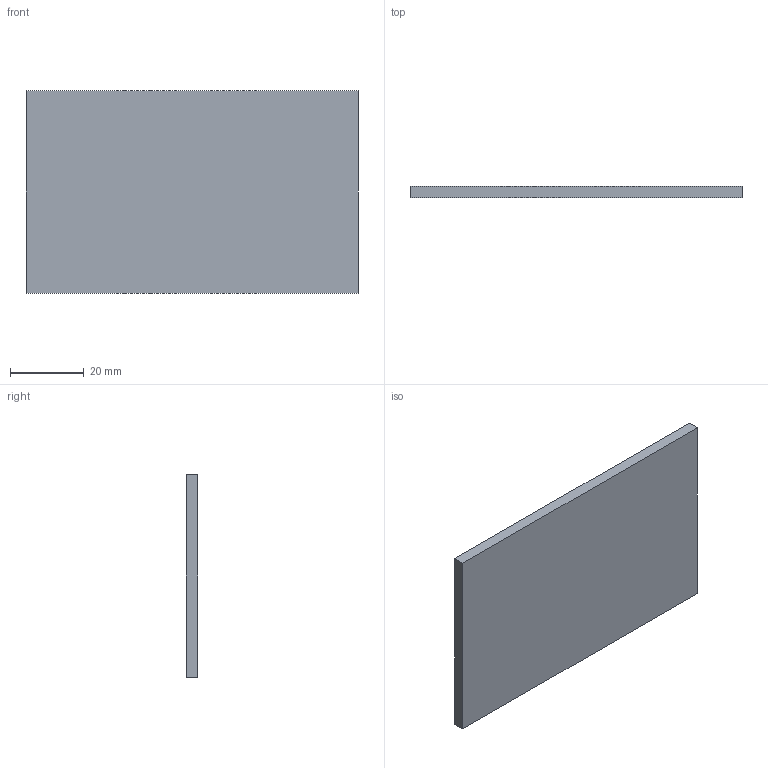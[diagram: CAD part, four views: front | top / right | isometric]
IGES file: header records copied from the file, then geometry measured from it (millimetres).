
Start section:  PTC IGES file: macaw_t_battery_prt.igs
Global section: file name: macaw_t_battery_prt.igs; native system: Pro/ENGINEER by Parametric Technology Corporation; preprocessor: 2000030; author: ECaille; organization: Unknown; date: 000803.092116; units: millimetre
Bounding box: 90 x 3.1 x 55 mm (x, y, z)
Surface area: 10799 mm2 (no closed solid volume)
Topology: 0 solids, 0 shells, 6 faces, 40 edges, 56 vertices
Faces by surface type: bspline 6
